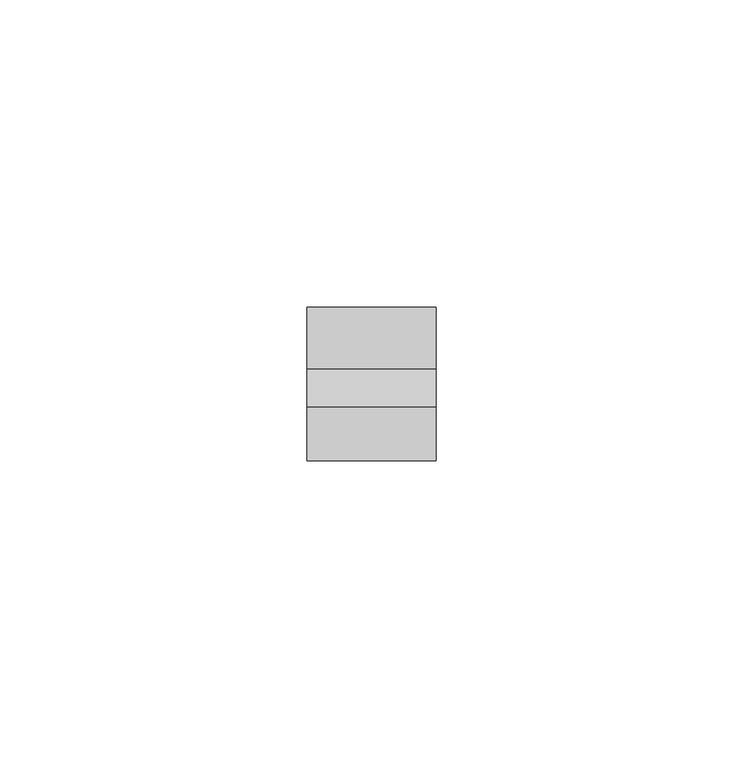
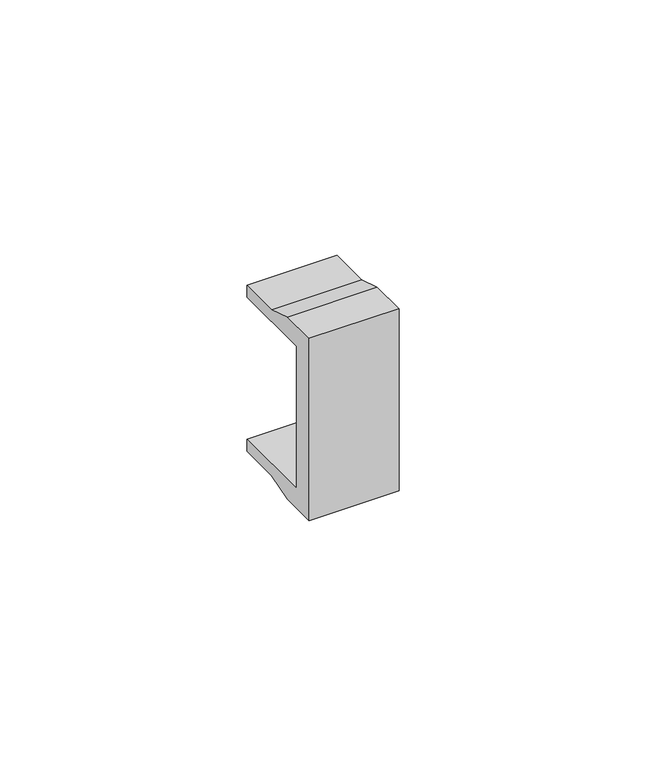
"""IFC4 building model written with IfcOpenShell, lengths in millimetres: proxy geometry, КНС_Заглушки_DKC : Заглушки_DKC."""

from ifc_helpers import new_model, si_unit, frame, origin, place, context, project, spatial, polyline, outline, extrude, source, transform, mapped, element, save


def electrical_fixtures_a915245d(model_context):
    return source(origin(), model_context, "Body", "SweptSolid", [
        extrude(outline(polyline([(-25.0, -22.5), (-25.0, 22.5), (-16.2913439, 22.5), (-10.0, 20.5), (0.0, 20.5), (0.0, 17.5), (-20.0, 17.5), (-20.0, -17.5), (0.0, -17.5), (0.0, -20.5), (-10.0, -20.5), (-16.2913439, -22.5), (-25.0, -22.5)])), frame((-10.5, 0.0, 0.0), z_axis=(1.0, 0.0, 0.0), x_axis=(0.0, 1.0, 0.0)), (0.0, 0.0, 1.0), 21.0),
    ])


if __name__ == "__main__":
    model = new_model("IFC4")
    model_context = context("Model", 3, world=origin())
    ifc_project = project(units=[si_unit("LENGTHUNIT", "METRE", prefix="MILLI")], contexts=[model_context])
    site = spatial("IfcSite", under=ifc_project)
    building = spatial("IfcBuilding", under=site)
    placement = place(None, origin())
    electrical_fixtures_shape = electrical_fixtures_a915245d(model_context)
    element("IfcBuildingElementProxy", 1, Name="КНС_Заглушки_DKC : Заглушки_DKC", ObjectType="КНС_Заглушки_DKC : Заглушки_DKC", at=placement, inside=building, context=model_context, shape_type="MappedRepresentation", body=[
        mapped(electrical_fixtures_shape, transform((0.0, 0.0, 0.0), x_axis=(1.0, 0.0, 0.0), y_axis=(0.0, 1.0, 0.0), z_axis=(0.0, 0.0, 1.0))),
    ])
    save(model, "model.ifc")
